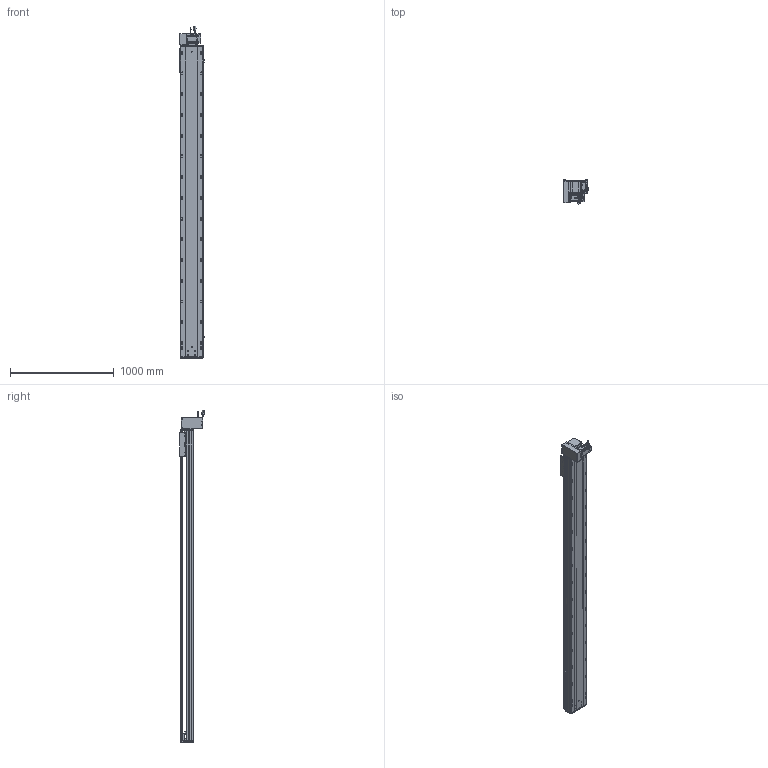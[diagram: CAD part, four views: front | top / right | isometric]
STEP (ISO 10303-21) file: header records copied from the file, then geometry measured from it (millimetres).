
FILE_DESCRIPTION (( 'STEP AP203' ), '1' );
FILE_NAME ('RY220-T-300-DL.SLDASM_2650.step', '2022-07-25T07:55:00', ( '' ), ( '' ), 'SwSTEP 2.0', 'SolidWorks 2016', '' );
FILE_SCHEMA (( 'CONFIG_CONTROL_DESIGN' ));
Length unit declared in the file: millimetre
Products named in the file (14): RY220-T-300-DL.SLDASM_2650; RY220圉猾敕々湍臏賑輸; 怢湛750W_ECMA-CX0807ES; 滅袉蝶18-15; RY220-同步轮副支撑座6304×2; RY220-T-蛌殏萇儂假蚾啣(750W); RY220-T-300-奻裔啣_2650; RY220翋肮祭謫裔啣; 110A-T-肮祭謫釱傷裔; RY220-T菁釱-300_2650; RY220翋肮祭謫釱; RY220-俋离672覜茼んえ; 覜茼ん672; RY220-T-湍謫欶(鍼踢)
Assembly tree (18 placements, depth 2):
  RY220-T-300-DL.SLDASM_2650
    RY220-T菁釱-300_2650
    RY220翋肮祭謫釱
    覜茼ん672  x3
    RY220圉猾敕々湍臏賑輸
    RY220-T-300-奻裔啣_2650
    RY220-俋离672覜茼んえ
    滅袉蝶18-15  x3
    RY220翋肮祭謫裔啣  x2
    110A-T-肮祭謫釱傷裔
    怢湛750W_ECMA-CX0807ES
    RY220-T-湍謫欶(鍼踢)
    RY220-T-蛌殏萇儂假蚾啣(750W)
    RY220-同步轮副支撑座6304×2
Bounding box: 239.7 x 240.74 x 3203.27 mm (x, y, z)
Volume: 22935022 mm3; surface area: 7061460.5 mm2
Topology: 19 solids, 19 shells, 2966 faces, 8207 edges, 5148 vertices
Faces by surface type: cylinder 1458, plane 1069, cone 357, bspline 56, sphere 16, torus 10
Entity records: 98995 total; most frequent: CARTESIAN_POINT 27985, ORIENTED_EDGE 14682, DIRECTION 14144, EDGE_CURVE 7341, AXIS2_PLACEMENT_3D 5096, VERTEX_POINT 4772, LINE 3952, VECTOR 3952
